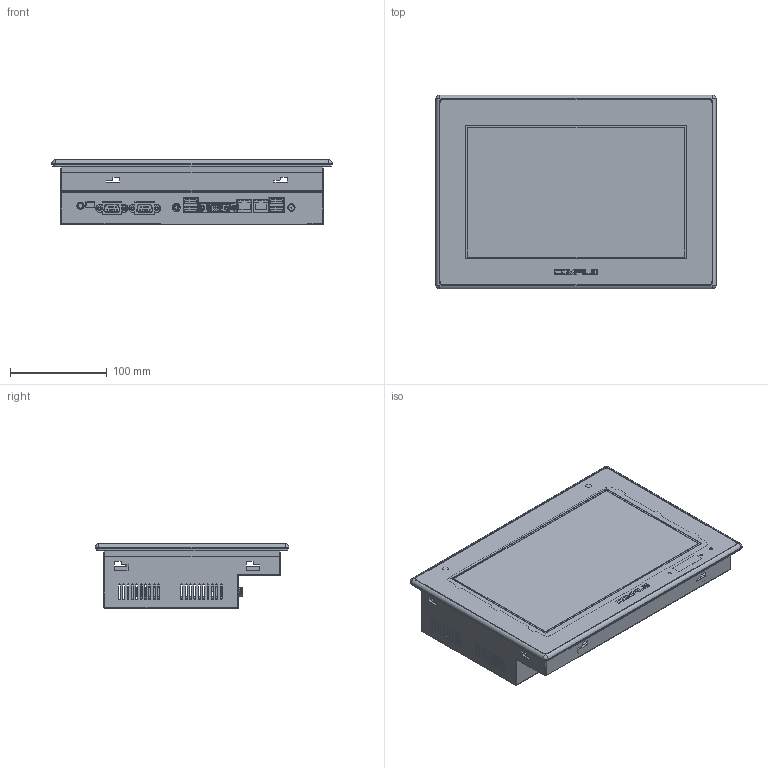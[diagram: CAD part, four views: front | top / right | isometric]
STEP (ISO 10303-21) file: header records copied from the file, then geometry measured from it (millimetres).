
FILE_DESCRIPTION (( 'STEP AP214' ), '1' );
FILE_NAME ('CPCV5-102WR_ASM.STEP', '2017-06-27T08:03:08', ( 'luke' ), ( '' ), 'SwSTEP 2.0', 'SolidWorks 2016', '' );
FILE_SCHEMA (( 'AUTOMOTIVE_DESIGN' ));
Length unit declared in the file: millimetre
Products named in the file (1): CPCV5-102WR_ASM
Bounding box: 289 x 200 x 66.5 mm (x, y, z)
Surface area: 706070.8 mm2 (no closed solid volume)
Topology: 0 solids, 103 shells, 3630 faces, 11011 edges, 7516 vertices
Faces by surface type: plane 2381, cylinder 1004, bspline 94, torus 67, cone 52, sphere 32
Entity records: 163027 total; most frequent: CARTESIAN_POINT 24349, DIRECTION 19801, ORIENTED_EDGE 19429, EDGE_CURVE 10979, LINE 8415, VECTOR 8415, VERTEX_POINT 7505, AXIS2_PLACEMENT_3D 5693
